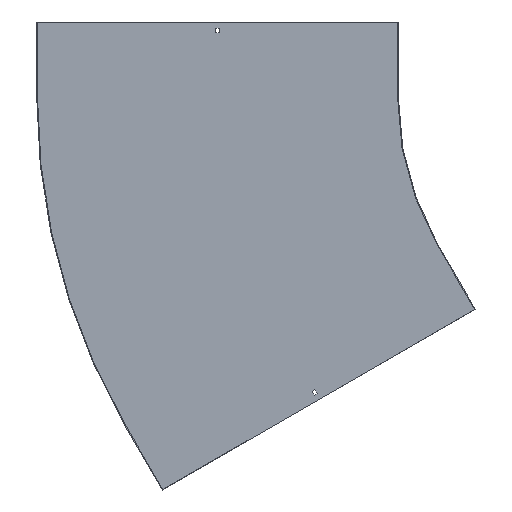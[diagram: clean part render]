
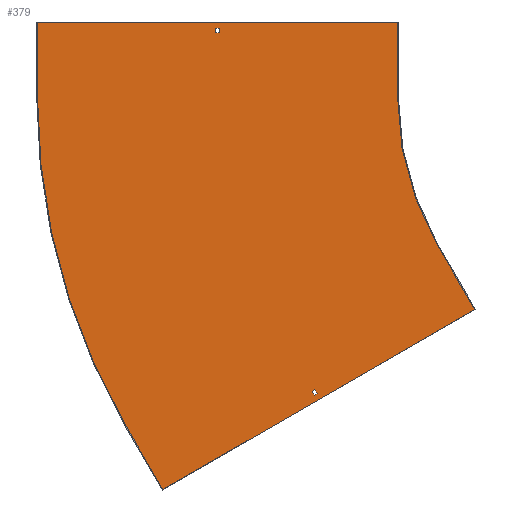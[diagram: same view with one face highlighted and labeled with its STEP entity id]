
A CAD part, front view. The second image highlights one B-rep face of the part: STEP entity #379.
In plain terms, the highlighted planar face has unit normal (0, -1, 0).
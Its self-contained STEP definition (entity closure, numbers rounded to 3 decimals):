
#1 = LINE ( 'NONE', #271, #146 ) ;
#7 = DIRECTION ( 'NONE',  ( 1., 0., 0. ) ) ;
#13 = DIRECTION ( 'NONE',  ( 0.5, 0., -0.866 ) ) ;
#21 = CARTESIAN_POINT ( 'NONE',  ( -750.91, -1.5, -592.887 ) ) ;
#24 = CARTESIAN_POINT ( 'NONE',  ( -946.75, -1.5, 138. ) ) ;
#29 = VECTOR ( 'NONE', #13, 1000. ) ;
#43 = EDGE_CURVE ( 'NONE', #840, #699, #621, .T. ) ;
#46 = DIRECTION ( 'NONE',  ( -0.866, 0., -0.5 ) ) ;
#51 = LINE ( 'NONE', #652, #562 ) ;
#59 = DIRECTION ( 'NONE',  ( 0., 0., -1. ) ) ;
#61 = CARTESIAN_POINT ( 'NONE',  ( -953.25, -1.5, 138. ) ) ;
#66 = CARTESIAN_POINT ( 'NONE',  ( -953.25, -1.5, 0. ) ) ;
#67 = VECTOR ( 'NONE', #822, 1000. ) ;
#68 = ORIENTED_EDGE ( 'NONE', *, *, #500, .F. ) ;
#70 = FACE_BOUND ( 'NONE', #758, .T. ) ;
#77 = DIRECTION ( 'NONE',  ( 0., 0., -1. ) ) ;
#85 = EDGE_CURVE ( 'NONE', #612, #802, #672, .T. ) ;
#91 = LINE ( 'NONE', #439, #67 ) ;
#97 = AXIS2_PLACEMENT_3D ( 'NONE', #553, #131, #683 ) ;
#109 = ORIENTED_EDGE ( 'NONE', *, *, #401, .F. ) ;
#111 = DIRECTION ( 'NONE',  ( 0., 0., -1. ) ) ;
#117 = DIRECTION ( 'NONE',  ( 0., 0., 1. ) ) ;
#126 = EDGE_CURVE ( 'NONE', #699, #787, #312, .T. ) ;
#131 = DIRECTION ( 'NONE',  ( 0., -1., 0. ) ) ;
#133 = ORIENTED_EDGE ( 'NONE', *, *, #85, .T. ) ;
#146 = VECTOR ( 'NONE', #678, 1000. ) ;
#148 = CARTESIAN_POINT ( 'NONE',  ( 64.5, -1.5, -111.717 ) ) ;
#153 = LINE ( 'NONE', #148, #675 ) ;
#154 = LINE ( 'NONE', #745, #747 ) ;
#155 = ORIENTED_EDGE ( 'NONE', *, *, #238, .F. ) ;
#156 = CARTESIAN_POINT ( 'NONE',  ( -946.75, -1.5, 0. ) ) ;
#167 = LINE ( 'NONE', #156, #258 ) ;
#169 = VECTOR ( 'NONE', #7, 1000. ) ;
#175 = ORIENTED_EDGE ( 'NONE', *, *, #43, .F. ) ;
#181 = DIRECTION ( 'NONE',  ( 0., 1., 0. ) ) ;
#191 = ORIENTED_EDGE ( 'NONE', *, *, #860, .F. ) ;
#209 = CARTESIAN_POINT ( 'NONE',  ( -435.955, -1.5, -424.904 ) ) ;
#214 = LINE ( 'NONE', #349, #29 ) ;
#216 = VECTOR ( 'NONE', #364, 1000. ) ;
#222 = VERTEX_POINT ( 'NONE', #266 ) ;
#223 = DIRECTION ( 'NONE',  ( -0.866, 0., -0.5 ) ) ;
#230 = VECTOR ( 'NONE', #411, 1000. ) ;
#231 = ORIENTED_EDGE ( 'NONE', *, *, #812, .T. ) ;
#238 = EDGE_CURVE ( 'NONE', #455, #653, #514, .T. ) ;
#249 = ORIENTED_EDGE ( 'NONE', *, *, #670, .F. ) ;
#253 = EDGE_CURVE ( 'NONE', #787, #807, #51, .T. ) ;
#258 = VECTOR ( 'NONE', #428, 1000. ) ;
#260 = ORIENTED_EDGE ( 'NONE', *, *, #295, .T. ) ;
#266 = CARTESIAN_POINT ( 'NONE',  ( -761.039, -1.5, -588.342 ) ) ;
#271 = CARTESIAN_POINT ( 'NONE',  ( -1059.493, -1.5, -784.904 ) ) ;
#276 = CARTESIAN_POINT ( 'NONE',  ( -590., -1.5, 150. ) ) ;
#295 = EDGE_CURVE ( 'NONE', #733, #612, #419, .T. ) ;
#299 = AXIS2_PLACEMENT_3D ( 'NONE', #746, #404, #77 ) ;
#312 = LINE ( 'NONE', #510, #216 ) ;
#328 = CARTESIAN_POINT ( 'NONE',  ( -953.25, -1.5, 129. ) ) ;
#335 = LINE ( 'NONE', #474, #230 ) ;
#342 = DIRECTION ( 'NONE',  ( 0., 0., 1. ) ) ;
#349 = CARTESIAN_POINT ( 'NONE',  ( -825.539, -1.5, -476.625 ) ) ;
#351 = CARTESIAN_POINT ( 'NONE',  ( -1059.493, -1.5, -784.904 ) ) ;
#352 = ORIENTED_EDGE ( 'NONE', *, *, #253, .F. ) ;
#357 = EDGE_LOOP ( 'NONE', ( #231, #442, #260, #133 ) ) ;
#358 = EDGE_CURVE ( 'NONE', #653, #222, #153, .T. ) ;
#364 = DIRECTION ( 'NONE',  ( 0.5, 0., -0.866 ) ) ;
#377 = ORIENTED_EDGE ( 'NONE', *, *, #358, .F. ) ;
#378 = CARTESIAN_POINT ( 'NONE',  ( -510.955, -1.5, -295. ) ) ;
#379 = ADVANCED_FACE ( 'NONE', ( #70, #620, #735 ), #804, .T. ) ;
#401 = EDGE_CURVE ( 'NONE', #222, #687, #214, .T. ) ;
#404 = DIRECTION ( 'NONE',  ( 0., -1., 0. ) ) ;
#405 = EDGE_CURVE ( 'NONE', #687, #455, #335, .T. ) ;
#411 = DIRECTION ( 'NONE',  ( 0.866, 0., 0.5 ) ) ;
#418 = EDGE_CURVE ( 'NONE', #807, #780, #1, .T. ) ;
#419 = LINE ( 'NONE', #607, #785 ) ;
#422 = CIRCLE ( 'NONE', #532, 1310. ) ;
#428 = DIRECTION ( 'NONE',  ( 0., 0., -1. ) ) ;
#433 = ORIENTED_EDGE ( 'NONE', *, *, #405, .F. ) ;
#435 = CARTESIAN_POINT ( 'NONE',  ( -1310., -1.5, 0. ) ) ;
#439 = CARTESIAN_POINT ( 'NONE',  ( -1311.5, -1.5, 150. ) ) ;
#442 = ORIENTED_EDGE ( 'NONE', *, *, #513, .T. ) ;
#453 = LINE ( 'NONE', #645, #546 ) ;
#455 = VERTEX_POINT ( 'NONE', #21 ) ;
#461 = DIRECTION ( 'NONE',  ( -0.5, 0., 0.866 ) ) ;
#466 = LINE ( 'NONE', #679, #169 ) ;
#467 = VERTEX_POINT ( 'NONE', #640 ) ;
#474 = CARTESIAN_POINT ( 'NONE',  ( 69., -1.5, -119.512 ) ) ;
#475 = CARTESIAN_POINT ( 'NONE',  ( -590., -1.5, 0. ) ) ;
#485 = VERTEX_POINT ( 'NONE', #435 ) ;
#500 = EDGE_CURVE ( 'NONE', #467, #839, #91, .T. ) ;
#502 = ORIENTED_EDGE ( 'NONE', *, *, #708, .F. ) ;
#510 = CARTESIAN_POINT ( 'NONE',  ( -510.955, -1.5, -295. ) ) ;
#513 = EDGE_CURVE ( 'NONE', #547, #733, #167, .T. ) ;
#514 = LINE ( 'NONE', #784, #732 ) ;
#517 = CARTESIAN_POINT ( 'NONE',  ( -756.539, -1.5, -596.137 ) ) ;
#532 = AXIS2_PLACEMENT_3D ( 'NONE', #849, #181, #111 ) ;
#537 = CARTESIAN_POINT ( 'NONE',  ( -946.75, -1.5, 129. ) ) ;
#546 = VECTOR ( 'NONE', #117, 1000. ) ;
#547 = VERTEX_POINT ( 'NONE', #24 ) ;
#553 = CARTESIAN_POINT ( 'NONE',  ( 0., -1.5, 0. ) ) ;
#562 = VECTOR ( 'NONE', #46, 1000. ) ;
#607 = CARTESIAN_POINT ( 'NONE',  ( 0., -1.5, 129. ) ) ;
#612 = VERTEX_POINT ( 'NONE', #328 ) ;
#620 = FACE_OUTER_BOUND ( 'NONE', #658, .T. ) ;
#621 = CIRCLE ( 'NONE', #299, 590. ) ;
#640 = CARTESIAN_POINT ( 'NONE',  ( -1310., -1.5, 150. ) ) ;
#645 = CARTESIAN_POINT ( 'NONE',  ( -1310., -1.5, 0. ) ) ;
#652 = CARTESIAN_POINT ( 'NONE',  ( -434.656, -1.5, -424.154 ) ) ;
#653 = VERTEX_POINT ( 'NONE', #716 ) ;
#658 = EDGE_LOOP ( 'NONE', ( #68, #502, #249, #825, #352, #852, #175, #191 ) ) ;
#670 = EDGE_CURVE ( 'NONE', #780, #485, #422, .T. ) ;
#672 = LINE ( 'NONE', #66, #688 ) ;
#675 = VECTOR ( 'NONE', #223, 1000. ) ;
#678 = DIRECTION ( 'NONE',  ( -0.5, 0., 0.866 ) ) ;
#679 = CARTESIAN_POINT ( 'NONE',  ( 0., -1.5, 138. ) ) ;
#683 = DIRECTION ( 'NONE',  ( 0., 0., -1. ) ) ;
#687 = VERTEX_POINT ( 'NONE', #517 ) ;
#688 = VECTOR ( 'NONE', #342, 1000. ) ;
#699 = VERTEX_POINT ( 'NONE', #378 ) ;
#708 = EDGE_CURVE ( 'NONE', #485, #467, #453, .T. ) ;
#716 = CARTESIAN_POINT ( 'NONE',  ( -755.41, -1.5, -585.092 ) ) ;
#732 = VECTOR ( 'NONE', #461, 1000. ) ;
#733 = VERTEX_POINT ( 'NONE', #537 ) ;
#735 = FACE_BOUND ( 'NONE', #357, .T. ) ;
#745 = CARTESIAN_POINT ( 'NONE',  ( -590., -1.5, 150. ) ) ;
#746 = CARTESIAN_POINT ( 'NONE',  ( 0., -1.5, 0. ) ) ;
#747 = VECTOR ( 'NONE', #59, 1000. ) ;
#758 = EDGE_LOOP ( 'NONE', ( #155, #433, #109, #377 ) ) ;
#780 = VERTEX_POINT ( 'NONE', #801 ) ;
#784 = CARTESIAN_POINT ( 'NONE',  ( -819.91, -1.5, -473.375 ) ) ;
#785 = VECTOR ( 'NONE', #814, 1000. ) ;
#787 = VERTEX_POINT ( 'NONE', #209 ) ;
#801 = CARTESIAN_POINT ( 'NONE',  ( -1134.493, -1.5, -655. ) ) ;
#802 = VERTEX_POINT ( 'NONE', #61 ) ;
#804 = PLANE ( 'NONE',  #97 ) ;
#807 = VERTEX_POINT ( 'NONE', #351 ) ;
#812 = EDGE_CURVE ( 'NONE', #802, #547, #466, .T. ) ;
#814 = DIRECTION ( 'NONE',  ( -1., 0., 0. ) ) ;
#822 = DIRECTION ( 'NONE',  ( 1., 0., 0. ) ) ;
#825 = ORIENTED_EDGE ( 'NONE', *, *, #418, .F. ) ;
#839 = VERTEX_POINT ( 'NONE', #276 ) ;
#840 = VERTEX_POINT ( 'NONE', #475 ) ;
#849 = CARTESIAN_POINT ( 'NONE',  ( 0., -1.5, 0. ) ) ;
#852 = ORIENTED_EDGE ( 'NONE', *, *, #126, .F. ) ;
#860 = EDGE_CURVE ( 'NONE', #839, #840, #154, .T. ) ;
